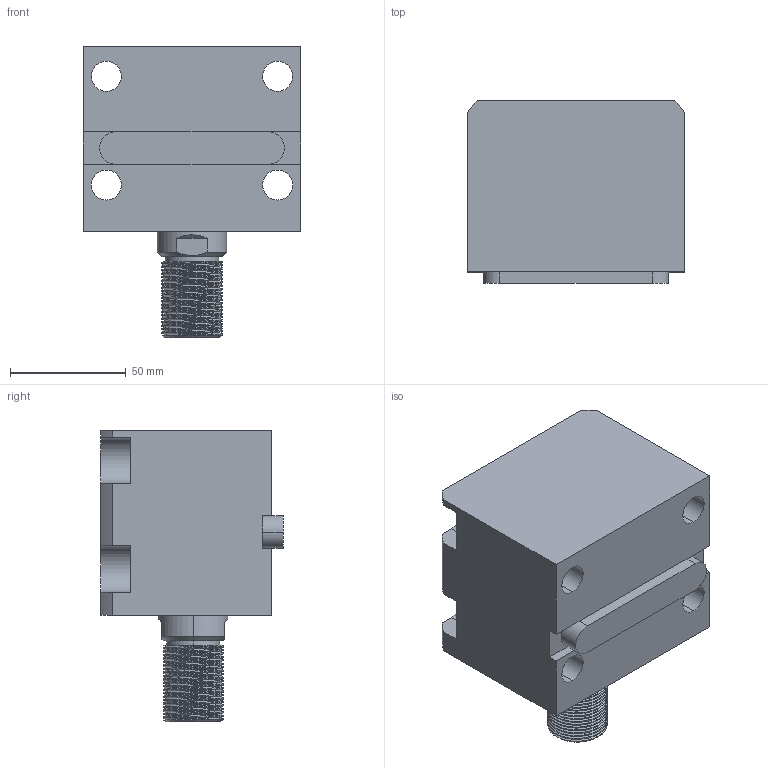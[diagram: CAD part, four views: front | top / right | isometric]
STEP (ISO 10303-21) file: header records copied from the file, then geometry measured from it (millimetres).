
FILE_DESCRIPTION (( 'STEP AP203' ), '1' );
FILE_NAME ('CHTB-LA50-20W.STEP', '2018-05-18T00:22:08', ( '' ), ( '' ), 'SwSTEP 2.0', 'SolidWorks 2015', '' );
FILE_SCHEMA (( 'CONFIG_CONTROL_DESIGN' ));
Length unit declared in the file: millimetre
Products named in the file (4): CHTB-LA50-20W; CHTM-SDMA50QG; 掛极LA50-20W; 活塞杆LA50-20W
Assembly tree (3 placements, depth 2):
  CHTB-LA50-20W
    掛极LA50-20W
    活塞杆LA50-20W
    CHTM-SDMA50QG
Bounding box: 94 x 79 x 126 mm (x, y, z)
Volume: 502024.5 mm3; surface area: 98434.2 mm2
Topology: 3 solids, 3 shells, 245 faces, 671 edges, 447 vertices
Faces by surface type: cylinder 136, plane 56, cone 21, bspline 16, torus 16
Entity records: 14999 total; most frequent: CARTESIAN_POINT 8836, ORIENTED_EDGE 1334, DIRECTION 1079, EDGE_CURVE 667, VERTEX_POINT 447, AXIS2_PLACEMENT_3D 417, EDGE_LOOP 278, VECTOR 245
